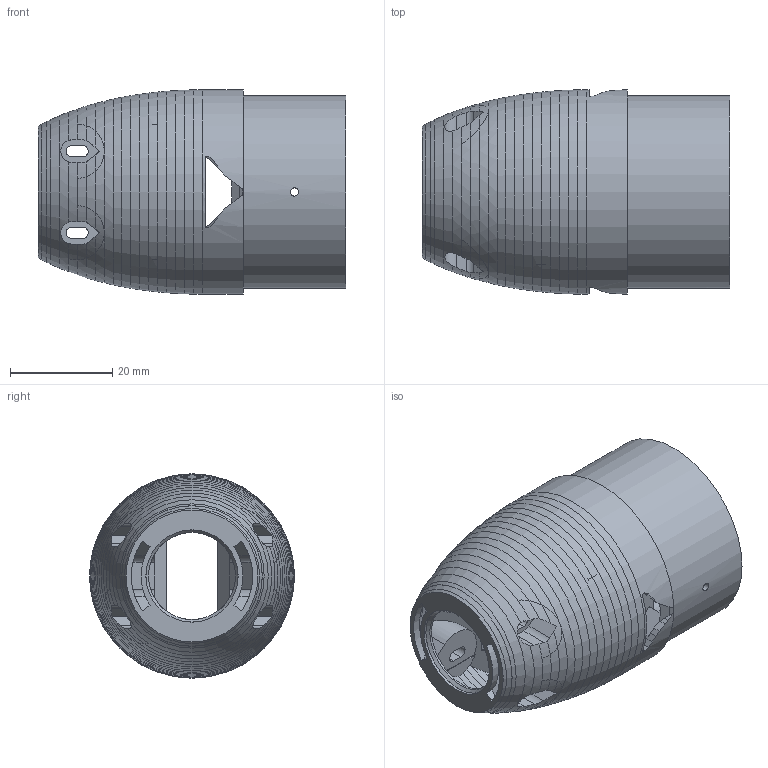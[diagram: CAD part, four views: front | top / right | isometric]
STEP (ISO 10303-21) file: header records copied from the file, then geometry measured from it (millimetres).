
FILE_DESCRIPTION(('SkyG Speed 90B - revision C6B-6 - 2026-10-08','N0O-nose-dji-o4'),'2;1');
FILE_NAME('N0O-nose-dji-o4_C6B-6','2026-10-08T12:30:58',('Author'),( 'Open CASCADE'),'Open CASCADE STEP processor 7.9','Open CASCADE 7.9' ,'Unknown');
FILE_SCHEMA(('AUTOMOTIVE_DESIGN { 1 0 10303 214 1 1 1 1 }'));
Length unit declared in the file: millimetre
Products named in the file (1): N0O-nose-dji-o4 C6B-6
Bounding box: 60.1 x 40 x 40 mm (x, y, z)
Volume: 27686.8 mm3; surface area: 17910.9 mm2
Topology: 1 solids, 1 shells, 363 faces, 1048 edges, 681 vertices
Faces by surface type: plane 195, cone 93, cylinder 49, bspline 26
Full cylindrical faces by diameter (mm): 1.6 x2, 17.04 x1, 18.046 x1, 33.8 x1, 37.7 x1, 40 x1
Entity records: 29944 total; most frequent: CARTESIAN_POINT 10854, DIRECTION 3069, ORIENTED_EDGE 2096, PCURVE 2096, DEFINITIONAL_REPRESENTATION 2096, LINE 1453, VECTOR 1453, B_SPLINE_CURVE_WITH_KNOTS 1054
